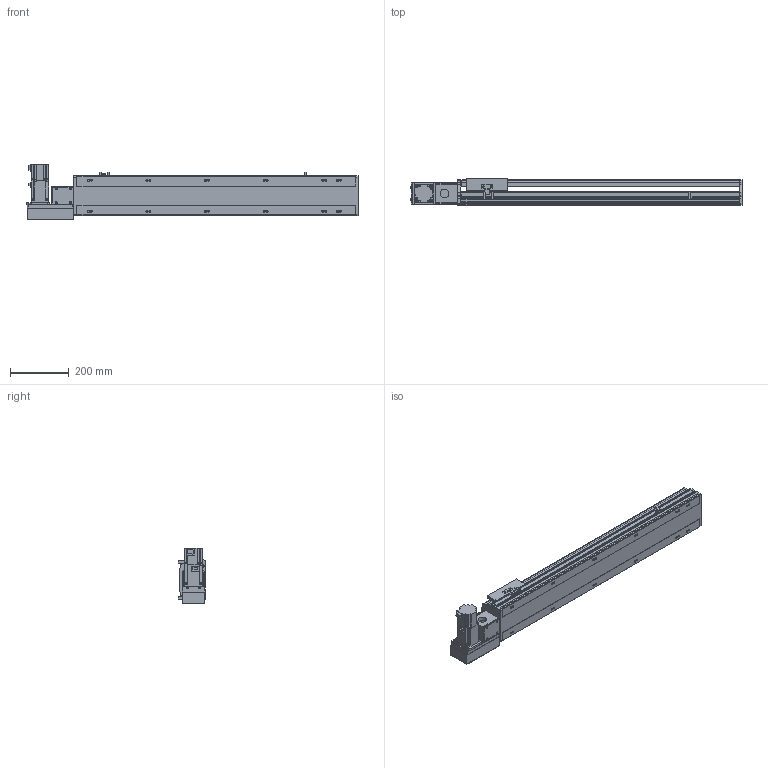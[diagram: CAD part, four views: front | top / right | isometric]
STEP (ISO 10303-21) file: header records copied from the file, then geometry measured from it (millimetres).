
FILE_DESCRIPTION(/* description */ ('STEP AP214'),/* implementation_level */ '2;1');
FILE_NAME(/* name */ 'PBS140S-P40-S700-L-T40-C1-N(0)',/* time_stamp */ '2022-06-09T02:00:58+02:00',/* author */ ('License CC BY-ND 4.0'),/* organization */ ('CADENAS'),/* preprocessor_version */ 'ST-DEVELOPER v18.102',/* originating_system */ 'PARTsolutions',/* authorisation */ ' ');
FILE_SCHEMA (('AUTOMOTIVE_DESIGN {1 0 10303 214 3 1 1}'));
Length unit declared in the file: millimetre
Products named in the file (7): PBS140S-P40-S700-L-T40-C1-N(0); PBS140S_sensor; PBS140S_plant; PBS140S_sliser; T40-p1; PBS140ST-L_motors; PBS140S-S700()_body
Assembly tree (8 placements, depth 2):
  PBS140S-P40-S700-L-T40-C1-N(0)
    PBS140S_sensor  x3
    PBS140S_plant
    PBS140S_sliser
    T40-p1
    PBS140ST-L_motors
    PBS140S-S700()_body
Bounding box: 1133 x 93 x 189.7 mm (x, y, z)
Volume: 5671797.7 mm3; surface area: 996180.8 mm2
Topology: 8 solids, 8 shells, 1067 faces, 2831 edges, 1853 vertices
Faces by surface type: plane 690, cylinder 329, cone 38, sphere 8, torus 2
Full cylindrical faces by diameter (mm): 3.242 x4, 4 x2, 4.134 x4, 4.4 x8, 4.5 x2, 4.8 x4, 4.917 x20, 5.5 x7, 6 x2, 7 x14, 7.5 x8, 8 x12, 8.5 x4, 10.5 x12, 14 x1, 30 x2, 50 x2
Entity records: 30580 total; most frequent: CARTESIAN_POINT 5592, DIRECTION 5208, ORIENTED_EDGE 4942, EDGE_CURVE 2471, AXIS2_PLACEMENT_3D 1799, VERTEX_POINT 1705, LINE 1610, VECTOR 1610
